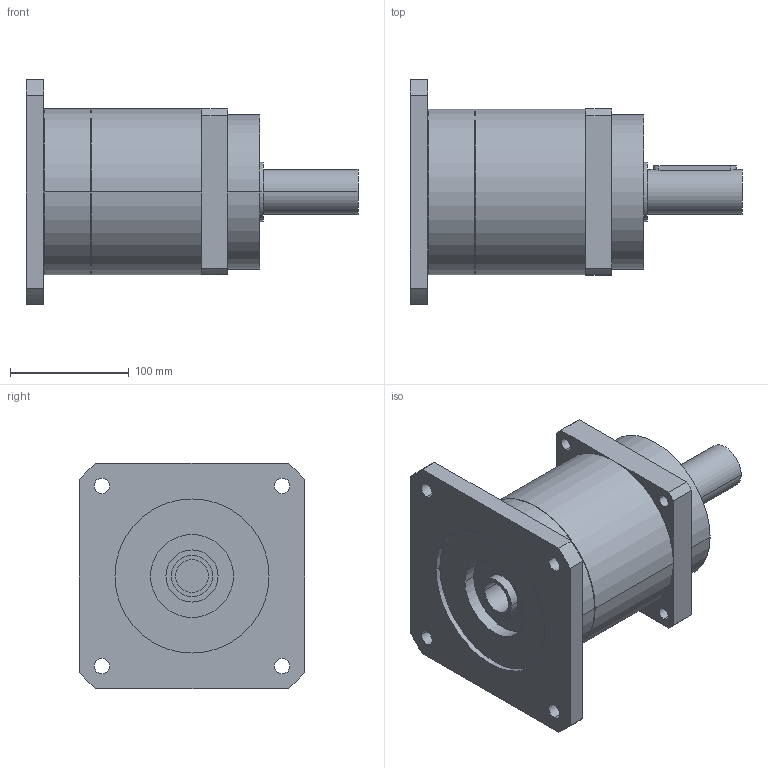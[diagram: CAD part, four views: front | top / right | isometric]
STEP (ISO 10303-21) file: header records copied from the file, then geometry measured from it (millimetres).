
FILE_DESCRIPTION(('CoCreate Modeling STEP Export'),'2;1');
FILE_NAME('GPR150_ig-3-4-5-7_38_B5_28_P13.stp','2014-08-19T16:42:47',(''),(''),'CoCreate Modeling STEP processor for AP214 (Solid Model)','CoCreate Modeling 16.00C 25-Feb-2009 (C) Parametric Technology GmbH','');
FILE_SCHEMA(('AUTOMOTIVE_DESIGN { 1 0 10303 214 1 1 1 1 }'));
Length unit declared in the file: millimetre
Products named in the file (2): GPR150_ig-3-4-5-7_38_B5_28_P13
Assembly tree (1 placements, depth 2):
  GPR150_ig-3-4-5-7_38_B5_28_P13
    GPR150_ig-3-4-5-7_38_B5_28_P13
Bounding box: 280 x 190 x 190 mm (x, y, z)
Volume: 3312638.7 mm3; surface area: 199091.8 mm2
Topology: 1 solids, 1 shells, 81 faces, 220 edges, 150 vertices
Faces by surface type: cylinder 48, plane 27, cone 6
Entity records: 2325 total; most frequent: ORIENTED_EDGE 436, CARTESIAN_POINT 431, DIRECTION 330, EDGE_CURVE 218, VERTEX_POINT 150, AXIS2_PLACEMENT_3D 121, EDGE_LOOP 108, VECTOR 88
